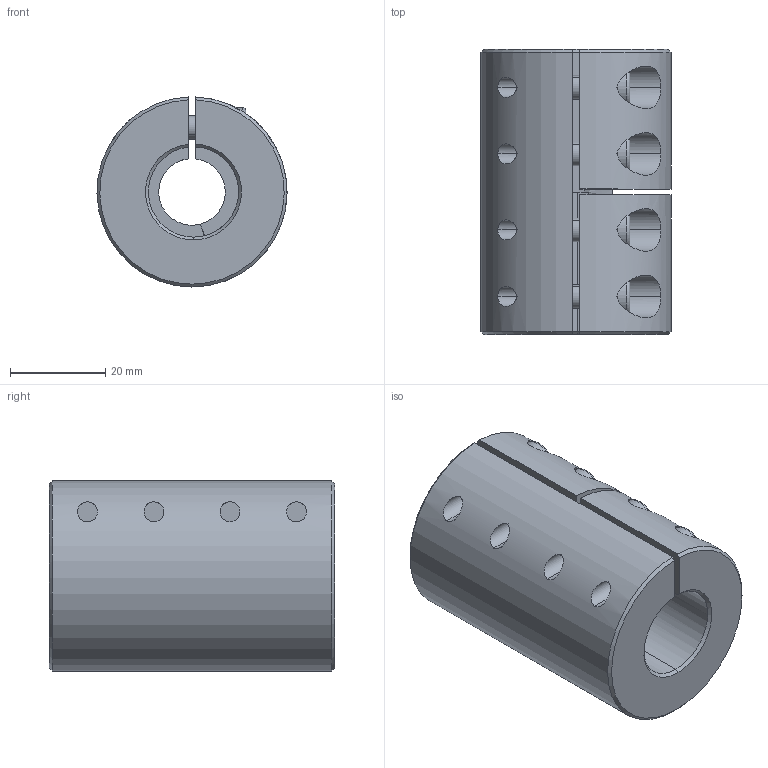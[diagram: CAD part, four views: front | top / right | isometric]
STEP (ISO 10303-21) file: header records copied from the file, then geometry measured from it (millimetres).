
FILE_DESCRIPTION (( 'STEP AP214' ), '1' );
FILE_NAME ('LL-B-D40L60-14-19½¨Ä£.STEP', '2022-07-22T01:01:42', ( '' ), ( '' ), 'SwSTEP 2.0', 'SolidWorks 2022', '' );
FILE_SCHEMA (( 'AUTOMOTIVE_DESIGN' ));
Length unit declared in the file: millimetre
Products named in the file (1): LL-B-D40L60-14-19膘耀
Bounding box: 40 x 60 x 39.99 mm (x, y, z)
Volume: 59192.9 mm3; surface area: 17345.1 mm2
Topology: 1 solids, 1 shells, 176 faces, 444 edges, 278 vertices
Faces by surface type: plane 84, cylinder 70, cone 14, torus 8
Entity records: 5801 total; most frequent: CARTESIAN_POINT 1475, DIRECTION 941, ORIENTED_EDGE 872, EDGE_CURVE 436, AXIS2_PLACEMENT_3D 368, VERTEX_POINT 278, EDGE_LOOP 208, VECTOR 205
